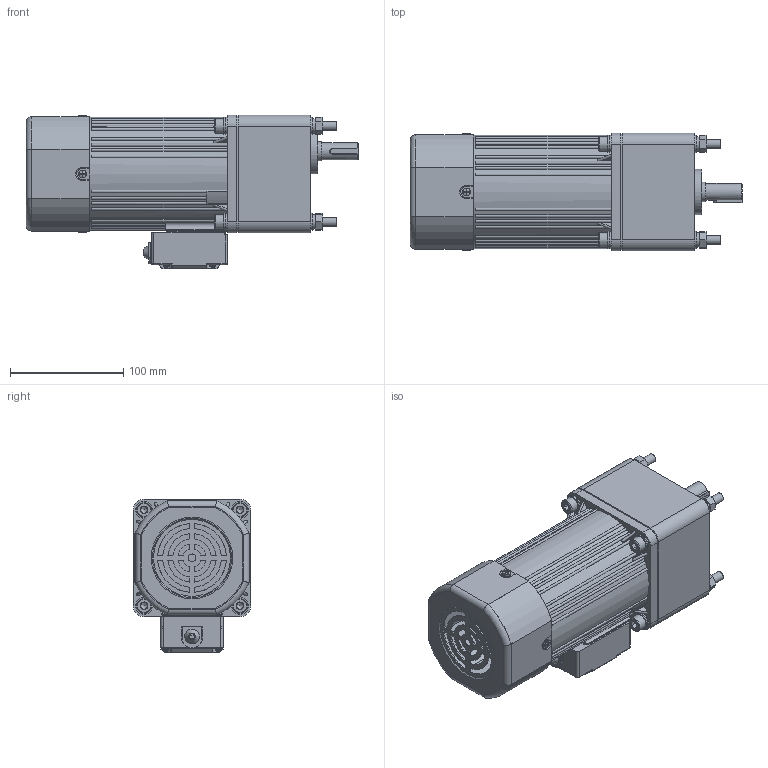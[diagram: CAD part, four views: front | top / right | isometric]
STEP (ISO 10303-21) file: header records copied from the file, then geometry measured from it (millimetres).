
FILE_DESCRIPTION(/* description */ (''),/* implementation_level */ '2;1');
FILE_NAME(/* name */ '6RK160-200GUC·TMF_6GU3-750K-C·15T长款接线盒.stp',/* time_stamp */ '2025-04-13T16:54:59+08:00',/* author */ (''),/* organization */ (''),/* preprocessor_version */ 'ST-DEVELOPER v18.102',/* originating_system */ 'SIEMENS PLM Software NX 2027',/* authorisation */ '');
FILE_SCHEMA (('AP203_CONFIGURATION_CONTROLLED_3D_DESIGN_OF_MECHANICAL_PARTS_AND_ASSEMBLIES_MIM_LF { 1 0 10303 403 2 1 2}'));
Products named in the file (1): 6RK160-200CC·MF_6GU3-750K-C·15T_stp_objects
Bounding box: 293.5 x 104.06 x 136.03 mm (x, y, z)
Volume: 1012745.4 mm3; surface area: 314903.7 mm2
Topology: 30 solids, 31 shells, 1837 faces, 4731 edges, 3015 vertices
Faces by surface type: plane 795, cylinder 548, bspline 181, cone 174, torus 103, sphere 36
Full cylindrical faces by diameter (mm): 2.2 x2, 2.9 x4, 3 x2, 3.3 x4, 3.5 x6, 3.6 x4, 4 x5, 4.2 x1, 4.8 x1, 5.6 x4, 6 x2, 6.8 x4, 6.985 x4, 7 x2, 7.76 x4, 8 x1, 8.4 x8, 8.5 x4, 9 x8, 10 x2, 13 x5, 14 x5, 15 x10, 15.5 x1, 17 x1, 17.3 x1, 19 x1, 27 x1, 28 x1, 30 x2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
Entity records: 56281 total; most frequent: CARTESIAN_POINT 13464, ORIENTED_EDGE 8754, DIRECTION 8489, EDGE_CURVE 4377, AXIS2_PLACEMENT_3D 3299, VERTEX_POINT 2912, EDGE_LOOP 2248, LINE 1891
